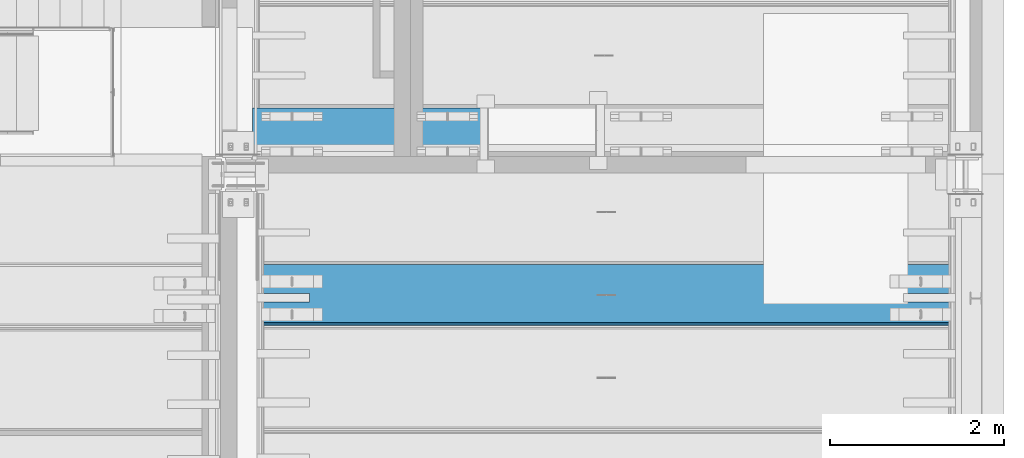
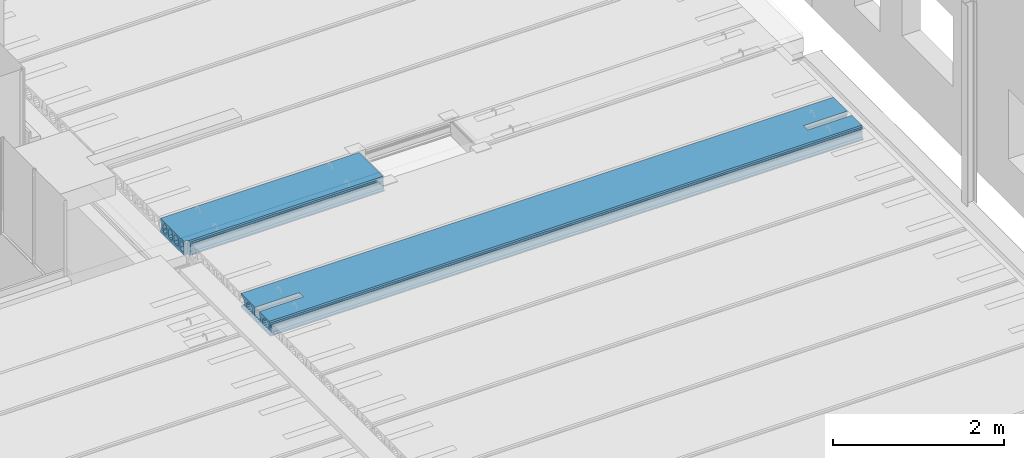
# One storey, part 96 of 230: 2 beams.
"""IFC4X3_ADD2 building model written with IfcOpenShell, lengths in millimetres."""

import ifcopenshell
import ifcopenshell.guid

model = None  # the IFC model being written
_history = None  # IfcOwnerHistory: only IFC2X3 demands one
_inside = {}  # id of a spatial element -> (the spatial element, [elements in it])
_under = {}  # id of a project, library or spatial element -> (it, [spatial elements below it])
_declared = {}  # id of a project -> (the project, [libraries it declares])
_typed = {}  # id of a type object -> (the type object, [elements of that type])
_made_of = {}  # id of a material, layer set ... -> (it, [elements and type objects made of it])


def new_model(schema):
    """Start an empty IFC model of exactly this schema.

    Asked for "IFC4X3", IfcOpenShell would pick the latest addendum, in which some entities
    have other attributes; the version numbers below select the first issue.
    IFC2X3 requires an IfcOwnerHistory on every rooted entity: one is made here for all.
    """
    global model, _history
    if schema == "IFC4X3":
        model = ifcopenshell.file(schema_version=(4, 3, 0, 0))
    else:
        model = ifcopenshell.file(schema=schema)
    _inside.clear()
    _under.clear()
    _declared.clear()
    _typed.clear()
    _made_of.clear()
    _history = None
    if model.schema == "IFC2X3":
        org = make("IfcOrganization", Name="unknown")
        user = make(
            "IfcPersonAndOrganization",
            ThePerson=make("IfcPerson", FamilyName="unknown"),
            TheOrganization=org,
        )
        app = make(
            "IfcApplication",
            ApplicationDeveloper=org,
            Version="unknown",
            ApplicationFullName="unknown",
            ApplicationIdentifier="unknown",
        )
        _history = make(
            "IfcOwnerHistory",
            OwningUser=user,
            OwningApplication=app,
            ChangeAction="ADDED",
            CreationDate=0,
        )
    return model


def make(cls, **values):
    """One entity of the class cls with the attributes given. An attribute that is None is left unset."""
    return model.create_entity(
        cls, **{name: value for name, value in values.items() if value is not None}
    )


def rooted(cls, **values):
    """An entity with a GlobalId (a new one), such as an element, a storey or a relation."""
    return make(cls, GlobalId=ifcopenshell.guid.new(), OwnerHistory=_history, **values)


def si_unit(unit_type, name, prefix=None):
    """IfcSIUnit, for example si_unit("LENGTHUNIT", "METRE", prefix="MILLI")."""
    return make("IfcSIUnit", UnitType=unit_type, Prefix=prefix, Name=name)


def assignment(units):
    """IfcUnitAssignment: the units of a project."""
    return None if units is None else make("IfcUnitAssignment", Units=units)


def point(xyz):
    """IfcCartesianPoint."""
    return None if xyz is None else make("IfcCartesianPoint", Coordinates=xyz)


def direction(xyz):
    """IfcDirection."""
    return None if xyz is None else make("IfcDirection", DirectionRatios=xyz)


def frame(location, z_axis=None, x_axis=None):
    """IfcAxis2Placement3D, a coordinate frame: its origin and axes. An axis left out is left unset."""
    return make(
        "IfcAxis2Placement3D",
        Location=point(location),
        Axis=direction(z_axis),
        RefDirection=direction(x_axis),
    )


def origin_with_axes():
    """The frame at (0, 0, 0) with the z axis (0, 0, 1) and the x axis (1, 0, 0) written out."""
    return frame((0.0, 0.0, 0.0), z_axis=(0.0, 0.0, 1.0), x_axis=(1.0, 0.0, 0.0))


def place(relative_to, where):
    """IfcLocalPlacement: puts the frame where relative to a parent placement (None: the world)."""
    return make(
        "IfcLocalPlacement", PlacementRelTo=relative_to, RelativePlacement=where
    )


def context(
    kind, dimensions, precision=None, world=None, true_north=None, identifier=None
):
    """IfcGeometricRepresentationContext, for example the 3D "Model" context."""
    return make(
        "IfcGeometricRepresentationContext",
        ContextIdentifier=identifier,
        ContextType=kind,
        CoordinateSpaceDimension=dimensions,
        Precision=precision,
        WorldCoordinateSystem=world,
        TrueNorth=true_north,
    )


def subcontext(parent, identifier, kind, view, scale=None):
    """IfcGeometricRepresentationSubContext, for example "Body" below "Model"."""
    return make(
        "IfcGeometricRepresentationSubContext",
        ContextIdentifier=identifier,
        ContextType=kind,
        ParentContext=parent,
        TargetScale=scale,
        TargetView=view,
    )


def project(units=None, contexts=None):
    """IfcProject with its units and contexts."""
    return rooted(
        "IfcProject",
        Name="project",
        RepresentationContexts=contexts,
        UnitsInContext=assignment(units),
    )


def spatial(cls, under=None, at=None, **own):
    """A site, building, storey or space (cls), placed at a placement, below another one or the project."""
    s = rooted(cls, ObjectPlacement=at, **own)
    if under is not None:
        _under.setdefault(under.id(), (under, []))[1].append(s)
    return s


def point_list(points):
    """IfcCartesianPointList2D or 3D."""
    cls = (
        "IfcCartesianPointList2D" if len(points[0]) == 2 else "IfcCartesianPointList3D"
    )
    return make(cls, CoordList=points)


def polygons(points, faces, closed=None, point_numbers=None):
    """IfcPolygonalFaceSet: a face is its outer loop, then its inner loops; points numbered from 1."""
    made = []
    for loops in faces:
        if len(loops) == 1:
            made.append(make("IfcIndexedPolygonalFace", CoordIndex=loops[0]))
        else:
            made.append(
                make(
                    "IfcIndexedPolygonalFaceWithVoids",
                    CoordIndex=loops[0],
                    InnerCoordIndices=loops[1:],
                )
            )
    return make(
        "IfcPolygonalFaceSet",
        Coordinates=point_list(points),
        Closed=closed,
        Faces=made,
        PnIndex=point_numbers,
    )


def shape(context_of_items, identifier, shape_type, items):
    """IfcShapeRepresentation: the items that make up one representation, for example the "Body"."""
    return make(
        "IfcShapeRepresentation",
        ContextOfItems=context_of_items,
        RepresentationIdentifier=identifier,
        RepresentationType=shape_type,
        Items=items,
    )


def made_of(thing, what):
    """Note that an element or type object is made of a material, layer set ...; save() writes the relation."""
    if what is not None:
        _made_of.setdefault(what.id(), (what, []))[1].append(thing)
    return thing


def element(
    cls,
    number,
    at=None,
    inside=None,
    cuts=None,
    type_object=None,
    material=None,
    context=None,
    identifier="Body",
    shape_type=None,
    held_by="IfcProductDefinitionShape",
    body=None,
    shapes=None,
    **own,
):
    """One element of the class cls, such as IfcWall. Its Tag is "e" and its number.

    at: its placement. inside: the storey or other place that contains it. cuts: it is an
    opening in that element (IfcRelVoidsElement). A single representation is given by context,
    identifier, shape_type and body (its items); several are given by shapes. held_by: the class
    of the entity that holds the representations. save() writes the other relations.
    """
    e = rooted(cls, Tag="e%d" % number, ObjectPlacement=at, **own)
    if body is not None:
        shapes = [shape(context, identifier, shape_type, body)]
    if shapes is not None:
        e.Representation = make(held_by, Representations=shapes)
    if inside is not None:
        _inside.setdefault(inside.id(), (inside, []))[1].append(e)
    if cuts is not None:
        rooted(
            "IfcRelVoidsElement", RelatingBuildingElement=cuts, RelatedOpeningElement=e
        )
    if type_object is not None:
        _typed.setdefault(type_object.id(), (type_object, []))[1].append(e)
    return made_of(e, material)


def aggregate(whole, parts):
    """IfcRelAggregates: a whole, such as a stair, and the parts it consists of."""
    return rooted("IfcRelAggregates", RelatingObject=whole, RelatedObjects=parts)


def save(model, path):
    """Write the relations noted so far, then the file.

    IfcRelAggregates (storeys below a building ...), IfcRelContainedInSpatialStructure (elements
    in a storey), IfcRelDefinesByType, IfcRelAssociatesMaterial and IfcRelDeclares: one each for
    every whole, place, type object, material and project.
    """
    for whole, parts in _under.values():
        aggregate(whole, parts)
    for where, things in _inside.values():
        rooted(
            "IfcRelContainedInSpatialStructure",
            RelatedElements=things,
            RelatingStructure=where,
        )
    for kind, things in _typed.values():
        rooted("IfcRelDefinesByType", RelatedObjects=things, RelatingType=kind)
    for what, things in _made_of.values():
        rooted("IfcRelAssociatesMaterial", RelatedObjects=things, RelatingMaterial=what)
    for by, libraries in _declared.values():
        rooted("IfcRelDeclares", RelatingContext=by, RelatedDefinitions=libraries)
    model.write(path)


model = new_model("IFC4X3_ADD2")

# Units and contexts
model_context = context("Model", 3, precision=1e-05, world=origin_with_axes(), true_north=direction((0.0, 1.0)))
body_context = subcontext(model_context, "Body", "Model", "MODEL_VIEW")
ifc_project = project(units=[si_unit("LENGTHUNIT", "METRE", prefix="MILLI"), si_unit("AREAUNIT", "SQUARE_METRE"), si_unit("VOLUMEUNIT", "CUBIC_METRE"), si_unit("PLANEANGLEUNIT", "RADIAN"), si_unit("TIMEUNIT", "SECOND"), si_unit("MASSUNIT", "GRAM")], contexts=[model_context])

# Site, building, storey
site_placement = place(None, origin_with_axes())
site = spatial("IfcSite", under=ifc_project, at=site_placement, Name="Site", CompositionType="ELEMENT")
building_placement = place(site_placement, origin_with_axes())
building = spatial("IfcBuilding", under=site, at=building_placement, Name="IFC Building Story")
storey_placement = place(building_placement, origin_with_axes())
storey = spatial("IfcBuildingStorey", under=building, at=storey_placement, Name="ETAGE 00 (0)", Elevation=0.0)

# Beams
beam_1_placement = place(storey_placement, origin_with_axes())
element("IfcBeam", 1, at=beam_1_placement, inside=storey, Name="HOLLOWCORE SLAB", ObjectType="EB_SPN200", context=body_context, shape_type="Tessellation", body=[
    polygons([(40131.189, 410.000018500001, 3999.9999909), (40131.189, 410.000018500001, 4199.9999909), (40131.189, 960.0000000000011, 4199.9999909), (40131.189, 959.970652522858, 4173.9999909), (40131.189, 951.000442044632, 4172.130025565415), (40131.189, 943.524572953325, 4166.831645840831), (40131.189, 938.7884452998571, 4158.987505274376), (40131.189, 937.581047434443, 4149.904354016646), (40131.189, 945.0817401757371, 4047.854121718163), (40131.189, 946.515079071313, 4042.477896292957), (40131.189, 949.815096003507, 4037.998147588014), (40131.189, 954.524691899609, 4035.035384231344), (40131.189, 960.0000000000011, 4034.001598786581), (40131.189, 960.0000000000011, 3999.9999909), (40131.189, 904.7784551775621, 4132.648621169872), (40131.189, 904.2623714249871, 4134.906763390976), (40131.189, 903.48865377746, 4137.090088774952), (40131.189, 902.467680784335, 4139.169310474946), (40131.189, 889.000018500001, 4162.9999909), (40131.189, 875.000018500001, 4172.9999909), (40131.189, 857.968848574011, 4173.755090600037), (40131.189, 841.4179446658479, 4169.66871024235), (40131.189, 826.6953036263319, 4161.073667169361), (40131.189, 815.000018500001, 4148.669989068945), (40131.189, 815.000018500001, 4059.329992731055), (40131.189, 826.695303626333, 4046.926314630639), (40131.189, 841.4179446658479, 4038.331271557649), (40131.189, 857.968848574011, 4034.244891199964), (40131.189, 875.000018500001, 4034.9999909), (40131.189, 886.000018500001, 4040.9999909), (40131.189, 902.000018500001, 4056.9999909), (40131.189, 908.000018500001, 4071.999990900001), (40131.189, 905.029982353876, 4130.345952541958), (40131.189, 728.0000185, 4173.999990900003), (40131.189, 699.5280630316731, 4167.318792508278), (40131.189, 677.000018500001, 4148.669989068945), (40131.189, 677.000018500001, 4059.329992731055), (40131.189, 699.5280630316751, 4040.681189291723), (40131.189, 728.0000185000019, 4033.999990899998), (40131.189, 756.4719739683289, 4040.681189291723), (40131.189, 779.000018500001, 4059.329992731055), (40131.189, 779.000018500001, 4148.669989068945), (40131.189, 756.4719739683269, 4167.318792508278), (40131.189, 590.000018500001, 4173.999990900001), (40131.189, 561.528063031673, 4167.318792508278), (40131.189, 539.000018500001, 4148.669989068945), (40131.189, 539.000018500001, 4059.329992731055), (40131.189, 561.5280630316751, 4040.681189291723), (40131.189, 590.000018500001, 4033.999990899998), (40131.189, 618.471973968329, 4040.681189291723), (40131.189, 641.000018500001, 4059.329992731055), (40131.189, 641.000018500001, 4148.669989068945), (40131.189, 618.471973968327, 4167.318792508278), (40131.189, 477.582092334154, 4169.668710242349), (40131.189, 461.031188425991, 4173.755090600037), (40131.189, 444.0000185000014, 4172.9999909), (40131.189, 430.000018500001, 4162.9999909), (40131.189, 416.5323714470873, 4139.169302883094), (40131.189, 415.5114016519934, 4137.090085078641), (40131.189, 414.7376861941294, 4134.906764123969), (40131.189, 414.2216035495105, 4132.648626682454), (40131.189, 413.9700763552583, 4130.345962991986), (40131.189, 411.0000185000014, 4071.9999909), (40131.189, 417.0000185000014, 4056.9999909), (40131.189, 433.0000185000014, 4040.9999909), (40131.189, 444.0000185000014, 4034.9999909), (40131.189, 461.031188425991, 4034.244891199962), (40131.189, 477.582092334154, 4038.331271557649), (40131.189, 492.304733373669, 4046.926314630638), (40131.189, 504.000018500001, 4059.329992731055), (40131.189, 504.000018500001, 4148.669989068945), (40131.189, 492.304733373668, 4161.073667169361), (42816.189, 398.0000185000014, 4199.9999909), (42816.189, 382.7113146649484, 4185.002769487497), (42816.189, 382.2299989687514, 4159.9999909), (42816.189, 389.4186549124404, 4151.036789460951), (42816.189, 391.8399485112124, 4139.805000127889), (42816.189, 388.9826399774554, 4128.676139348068), (42816.189, 381.4500307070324, 4119.9999909), (42816.189, 380.000018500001, 4044.9999909), (42816.189, 360.000018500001, 4029.9999909), (42816.189, 360.000018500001, 4012.9999909), (42816.189, 371.0000185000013, 3999.9999909), (42816.189, 960.0000000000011, 3999.9999909), (42816.189, 960.0085159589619, 4033.9999909), (42816.189, 954.524691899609, 4035.035384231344), (42816.189, 949.815096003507, 4037.998147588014), (42816.189, 946.515079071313, 4042.477896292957), (42816.189, 945.0817401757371, 4047.854121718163), (42816.189, 937.581047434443, 4149.904354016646), (42816.189, 938.7884452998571, 4158.987505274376), (42816.189, 943.524572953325, 4166.831645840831), (42816.189, 951.000442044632, 4172.130025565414), (42816.189, 960.0000000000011, 4173.9999909), (42816.189, 960.0000000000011, 4199.9999909), (42816.189, 904.7784551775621, 4132.648621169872), (42816.189, 905.029982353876, 4130.345952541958), (42816.189, 908.000018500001, 4071.9999909), (42816.189, 902.000018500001, 4056.9999909), (42816.189, 886.000018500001, 4040.9999909), (42816.189, 875.000018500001, 4034.9999909), (42816.189, 857.968848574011, 4034.244891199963), (42816.189, 841.4179446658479, 4038.33127155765), (42816.189, 826.695303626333, 4046.926314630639), (42816.189, 815.000018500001, 4059.329992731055), (42816.189, 815.000018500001, 4148.669989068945), (42816.189, 826.6953036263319, 4161.073667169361), (42816.189, 841.4179446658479, 4169.66871024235), (42816.189, 857.968848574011, 4173.755090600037), (42816.189, 875.000018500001, 4172.9999909), (42816.189, 889.000018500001, 4162.9999909), (42816.189, 902.467680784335, 4139.169310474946), (42816.189, 903.48865377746, 4137.090088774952), (42816.189, 904.2623714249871, 4134.906763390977), (42816.189, 728.0000185, 4173.999990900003), (42816.189, 756.4719739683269, 4167.318792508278), (42816.189, 779.000018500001, 4148.669989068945), (42816.189, 779.000018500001, 4059.329992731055), (42816.189, 756.4719739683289, 4040.681189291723), (42816.189, 728.0000185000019, 4033.999990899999), (42816.189, 699.5280630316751, 4040.681189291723), (42816.189, 677.000018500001, 4059.329992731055), (42816.189, 677.000018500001, 4148.669989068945), (42816.189, 699.5280630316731, 4167.318792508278), (42816.189, 590.000018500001, 4173.999990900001), (42816.189, 618.471973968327, 4167.318792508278), (42816.189, 641.000018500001, 4148.669989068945), (42816.189, 641.000018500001, 4059.329992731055), (42816.189, 618.471973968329, 4040.681189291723), (42816.189, 590.000018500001, 4033.999990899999), (42816.189, 561.5280630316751, 4040.681189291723), (42816.189, 539.000018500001, 4059.329992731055), (42816.189, 539.000018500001, 4148.669989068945), (42816.189, 561.528063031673, 4167.318792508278), (42816.189, 477.582092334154, 4169.668710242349), (42816.189, 492.304733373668, 4161.073667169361), (42816.189, 504.000018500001, 4148.669989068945), (42816.189, 504.000018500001, 4059.329992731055), (42816.189, 492.304733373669, 4046.926314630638), (42816.189, 477.582092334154, 4038.331271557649), (42816.189, 461.031188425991, 4034.244891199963), (42816.189, 444.0000185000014, 4034.9999909), (42816.189, 433.0000185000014, 4040.9999909), (42816.189, 417.0000185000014, 4056.9999909), (42816.189, 411.0000185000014, 4071.9999909), (42816.189, 413.9700763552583, 4130.345962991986), (42816.189, 414.2216035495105, 4132.648626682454), (42816.189, 414.7376861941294, 4134.906764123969), (42816.189, 415.5114016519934, 4137.090085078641), (42816.189, 416.5323714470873, 4139.169302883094), (42816.189, 430.000018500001, 4162.9999909), (42816.189, 444.0000185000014, 4172.9999909), (42816.189, 461.031188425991, 4173.755090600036), (40181.189, 371.0000185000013, 3999.9999909), (40181.189, 410.000018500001, 3999.9999909), (40181.189, 360.000018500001, 4012.999990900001), (40181.189, 360.000018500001, 4029.9999909), (40181.189, 380.000018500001, 4044.9999909), (40181.189, 381.4500307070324, 4119.9999909), (40181.189, 388.9826399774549, 4128.676139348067), (40181.189, 391.8399485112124, 4139.805000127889), (40181.189, 389.4186549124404, 4151.036789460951), (40181.189, 382.2299989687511, 4159.9999909), (40181.189, 382.7113146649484, 4185.002769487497), (40181.189, 398.0000185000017, 4199.9999909), (40181.189, 410.000018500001, 4199.9999909), (40131.189, 960.0000000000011, 4174.006108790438), (42816.189, 959.970652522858, 4173.9999909), (40131.189, 960.0085159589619, 4033.9999909), (42816.189, 960.000000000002, 4034.001598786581), (40131.189, 960.0000000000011, 4173.993912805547), (42816.189, 960.0000000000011, 4174.006108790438), (42816.189, 960.0000000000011, 4033.9999909)], [[[44, 2, 3]], [[3, 53, 44]], [[52, 53, 36]], [[36, 37, 51]], [[36, 51, 52]], [[53, 35, 36]], [[53, 34, 35]], [[53, 3, 34]], [[43, 34, 3]], [[18, 19, 7]], [[18, 7, 8]], [[8, 17, 18]], [[8, 16, 17]], [[8, 15, 16]], [[19, 6, 7]], [[22, 23, 42]], [[22, 42, 43]], [[43, 21, 22]], [[21, 43, 3]], [[3, 20, 21]], [[3, 6, 19]], [[3, 19, 20]], [[3, 5, 6]], [[3, 4, 5]], [[25, 26, 41]], [[41, 42, 24]], [[41, 24, 25]], [[42, 23, 24]], [[33, 15, 8]], [[8, 9, 32]], [[8, 32, 33]], [[9, 31, 32]], [[12, 13, 14]], [[14, 11, 12]], [[14, 10, 11]], [[10, 14, 30]], [[30, 31, 9]], [[30, 9, 10]], [[14, 29, 30]], [[14, 28, 29]], [[14, 40, 28]], [[40, 27, 28]], [[40, 41, 26]], [[40, 26, 27]], [[14, 39, 40]], [[14, 50, 39]], [[50, 38, 39]], [[50, 51, 37]], [[50, 37, 38]], [[14, 49, 50]], [[14, 1, 49]], [[1, 48, 49]], [[1, 47, 48]], [[54, 2, 46]], [[46, 72, 54]], [[46, 71, 72]], [[46, 47, 70]], [[46, 70, 71]], [[47, 69, 70]], [[47, 68, 69]], [[68, 47, 1]], [[1, 67, 68]], [[1, 66, 67]], [[1, 65, 66]], [[1, 64, 65]], [[1, 63, 64]], [[63, 1, 2]], [[2, 62, 63]], [[2, 61, 62]], [[2, 60, 61]], [[2, 59, 60]], [[2, 58, 59]], [[2, 57, 58]], [[2, 56, 57]], [[2, 55, 56]], [[2, 54, 55]], [[2, 45, 46]], [[2, 44, 45]], [[80, 81, 82]], [[80, 82, 83]], [[99, 100, 89]], [[89, 98, 99]], [[89, 90, 97]], [[89, 97, 98]], [[90, 96, 97]], [[100, 88, 89]], [[114, 96, 90]], [[90, 113, 114]], [[90, 91, 112]], [[90, 112, 113]], [[93, 94, 95]], [[95, 92, 93]], [[92, 95, 111]], [[111, 112, 91]], [[111, 91, 92]], [[95, 110, 111]], [[95, 109, 110]], [[109, 95, 115]], [[115, 108, 109]], [[115, 107, 108]], [[118, 119, 105]], [[106, 107, 117]], [[117, 118, 105]], [[117, 105, 106]], [[107, 116, 117]], [[107, 115, 116]], [[119, 104, 105]], [[115, 95, 73]], [[73, 124, 115]], [[123, 124, 127]], [[127, 128, 122]], [[127, 122, 123]], [[124, 126, 127]], [[124, 125, 126]], [[124, 73, 125]], [[134, 125, 73]], [[73, 133, 134]], [[145, 146, 78]], [[145, 78, 79]], [[145, 79, 80]], [[80, 144, 145]], [[80, 83, 143]], [[80, 143, 144]], [[83, 142, 143]], [[83, 141, 142]], [[83, 140, 141]], [[83, 132, 140]], [[132, 139, 140]], [[132, 138, 139]], [[132, 133, 137]], [[132, 137, 138]], [[133, 136, 137]], [[133, 135, 136]], [[133, 73, 135]], [[83, 131, 132]], [[83, 130, 131]], [[83, 121, 130]], [[121, 129, 130]], [[121, 122, 128]], [[121, 128, 129]], [[83, 120, 121]], [[83, 103, 120]], [[103, 104, 119]], [[103, 119, 120]], [[83, 102, 103]], [[83, 84, 102]], [[84, 101, 102]], [[84, 88, 100]], [[84, 100, 101]], [[84, 87, 88]], [[84, 86, 87]], [[84, 85, 86]], [[149, 150, 77]], [[77, 148, 149]], [[77, 147, 148]], [[77, 78, 146]], [[77, 146, 147]], [[153, 135, 73]], [[73, 152, 153]], [[73, 151, 152]], [[73, 76, 77]], [[73, 77, 150]], [[73, 150, 151]], [[73, 74, 75]], [[73, 75, 76]], [[155, 1, 14]], [[155, 14, 84]], [[155, 84, 83]], [[83, 154, 155]], [[83, 82, 156, 154]], [[82, 81, 157, 156]], [[81, 80, 158, 157]], [[80, 79, 159, 158]], [[79, 78, 160, 159]], [[78, 77, 161, 160]], [[77, 76, 162, 161]], [[76, 75, 163, 162]], [[75, 74, 164, 163]], [[74, 73, 165, 164]], [[166, 165, 73]], [[73, 95, 3]], [[73, 3, 166]], [[3, 2, 166]], [[5, 167, 168, 93]], [[6, 5, 93, 92]], [[7, 6, 92, 91]], [[8, 7, 91, 90]], [[9, 8, 90, 89]], [[10, 9, 89, 88]], [[11, 10, 88, 87]], [[12, 11, 87, 86]], [[169, 12, 86, 170]], [[16, 15, 96, 114]], [[17, 16, 114, 113]], [[18, 17, 113, 112]], [[19, 18, 112, 111]], [[20, 19, 111, 110]], [[21, 20, 110, 109]], [[22, 21, 109, 108]], [[23, 22, 108, 107]], [[24, 23, 107, 106]], [[25, 24, 106, 105]], [[26, 25, 105, 104]], [[27, 26, 104, 103]], [[28, 27, 103, 102]], [[29, 28, 102, 101]], [[30, 29, 101, 100]], [[31, 30, 100, 99]], [[32, 31, 99, 98]], [[33, 32, 98, 97]], [[15, 33, 97, 96]], [[35, 34, 115, 124]], [[36, 35, 124, 123]], [[37, 36, 123, 122]], [[38, 37, 122, 121]], [[39, 38, 121, 120]], [[40, 39, 120, 119]], [[41, 40, 119, 118]], [[42, 41, 118, 117]], [[43, 42, 117, 116]], [[34, 43, 116, 115]], [[45, 44, 125, 134]], [[46, 45, 134, 133]], [[47, 46, 133, 132]], [[48, 47, 132, 131]], [[49, 48, 131, 130]], [[50, 49, 130, 129]], [[51, 50, 129, 128]], [[52, 51, 128, 127]], [[53, 52, 127, 126]], [[44, 53, 126, 125]], [[55, 54, 135, 153]], [[56, 55, 153, 152]], [[57, 56, 152, 151]], [[58, 57, 151, 150]], [[59, 58, 150, 149]], [[60, 59, 149, 148]], [[61, 60, 148, 147]], [[62, 61, 147, 146]], [[63, 62, 146, 145]], [[64, 63, 145, 144]], [[65, 64, 144, 143]], [[66, 65, 143, 142]], [[67, 66, 142, 141]], [[68, 67, 141, 140]], [[69, 68, 140, 139]], [[70, 69, 139, 138]], [[71, 70, 138, 137]], [[72, 71, 137, 136]], [[54, 72, 136, 135]], [[2, 1, 155, 166]], [[162, 163, 164]], [[162, 164, 165]], [[162, 165, 166]], [[166, 161, 162]], [[166, 160, 161]], [[160, 166, 155]], [[160, 155, 158]], [[158, 159, 160]], [[155, 154, 158]], [[154, 156, 157]], [[154, 157, 158]], [[171, 3, 95, 172]], [[14, 13, 173, 84]]]),
])
beam_2_placement = place(storey_placement, origin_with_axes())
element("IfcBeam", 2, at=beam_2_placement, inside=storey, Name="HOLLOWCORE SLAB", ObjectType="EB_SP200", context=body_context, shape_type="Tessellation", body=[
    polygons([(40181.189, -1528.9999815, 3999.9999909), (40181.189, -1539.9999815, 4012.9999909), (40181.189, -1539.9999815, 4029.9999909), (40181.189, -1519.9999815, 4044.9999909), (40181.189, -1518.549969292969, 4119.9999909), (40181.189, -1511.017360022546, 4128.676139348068), (40181.189, -1508.160051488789, 4139.805000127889), (40181.189, -1510.581345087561, 4151.036789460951), (40181.189, -1517.77000103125, 4159.9999909), (40181.189, -1517.288685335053, 4185.002769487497), (40181.189, -1501.9999815, 4199.9999909), (40181.189, -1269.9999815, 4199.9999909), (40181.189, -1269.9999815, 4155.806158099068), (40181.189, -1274.679436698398, 4152.679446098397), (40181.189, -1290.829006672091, 4128.509906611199), (40181.189, -1296.4999815, 4099.9999909), (40181.189, -1290.829006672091, 4071.490075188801), (40181.189, -1274.679436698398, 4047.320535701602), (40181.189, -1250.509897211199, 4031.170965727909), (40181.189, -1221.9999815, 4025.4999909), (40181.189, -1193.490065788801, 4031.170965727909), (40181.189, -1169.320526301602, 4047.320535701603), (40181.189, -1153.170956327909, 4071.490075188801), (40181.189, -1147.4999815, 4099.9999909), (40181.189, -1153.170956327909, 4128.509906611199), (40181.189, -1169.320526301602, 4152.679446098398), (40181.189, -1169.9999815, 4153.13344354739), (40181.189, -1169.9999815, 4199.9999909), (40181.189, -840.0, 4199.9999909), (40181.189, -840.0, 4173.306520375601), (40181.189, -845.9999815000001, 4174.4999909), (40181.189, -874.5098972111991, 4168.829016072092), (40181.189, -898.679436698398, 4152.679446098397), (40181.189, -914.829006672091, 4128.509906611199), (40181.189, -920.4999815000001, 4099.9999909), (40181.189, -914.829006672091, 4071.490075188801), (40181.189, -898.679436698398, 4047.320535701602), (40181.189, -874.5098972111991, 4031.170965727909), (40181.189, -845.9999815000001, 4025.4999909), (40181.189, -840.0, 4026.693461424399), (40181.189, -840.0, 3999.9999909), (40181.189, -981.3205263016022, 4152.679446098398), (40181.189, -1005.490065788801, 4168.829016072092), (40181.189, -1033.9999815, 4174.4999909), (40181.189, -1062.509897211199, 4168.829016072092), (40181.189, -1086.679436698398, 4152.679446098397), (40181.189, -1102.829006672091, 4128.509906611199), (40181.189, -1108.4999815, 4099.9999909), (40181.189, -1102.829006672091, 4071.490075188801), (40181.189, -1086.679436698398, 4047.320535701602), (40181.189, -1062.509897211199, 4031.170965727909), (40181.189, -1033.9999815, 4025.4999909), (40181.189, -1005.490065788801, 4031.170965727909), (40181.189, -981.3205263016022, 4047.320535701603), (40181.189, -965.1709563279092, 4071.490075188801), (40181.189, -959.4999815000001, 4099.9999909), (40181.189, -965.1709563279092, 4128.509906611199), (40181.189, -1357.320526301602, 4152.679446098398), (40181.189, -1381.490065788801, 4168.829016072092), (40181.189, -1409.9999815, 4174.4999909), (40181.189, -1438.509897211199, 4168.829016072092), (40181.189, -1462.679436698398, 4152.679446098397), (40181.189, -1478.829006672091, 4128.509906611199), (40181.189, -1484.4999815, 4099.9999909), (40181.189, -1478.829006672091, 4071.490075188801), (40181.189, -1462.679436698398, 4047.320535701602), (40181.189, -1438.509897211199, 4031.170965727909), (40181.189, -1409.9999815, 4025.4999909), (40181.189, -1381.490065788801, 4031.170965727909), (40181.189, -1357.320526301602, 4047.320535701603), (40181.189, -1341.170956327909, 4071.490075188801), (40181.189, -1335.4999815, 4099.9999909), (40181.189, -1341.170956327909, 4128.509906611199), (48196.18900000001, -1169.9999815, 4199.9999909), (48196.18900000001, -1169.9999815, 4153.13344354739), (48196.18900000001, -1169.320526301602, 4152.679446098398), (48196.18900000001, -1153.170956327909, 4128.509906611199), (48196.18900000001, -1147.4999815, 4099.9999909), (48196.18900000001, -1153.170956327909, 4071.490075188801), (48196.18900000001, -1169.320526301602, 4047.320535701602), (48196.18900000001, -1193.490065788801, 4031.170965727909), (48196.18900000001, -1221.9999815, 4025.4999909), (48196.18900000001, -1250.509897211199, 4031.170965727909), (48196.18900000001, -1274.679436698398, 4047.320535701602), (48196.18900000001, -1290.829006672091, 4071.490075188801), (48196.18900000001, -1296.4999815, 4099.9999909), (48196.18900000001, -1290.829006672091, 4128.509906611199), (48196.18900000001, -1274.679436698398, 4152.679446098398), (48196.18900000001, -1269.9999815, 4155.806158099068), (48196.18900000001, -1269.9999815, 4199.9999909), (48196.18900000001, -1501.9999815, 4199.9999909), (48196.18900000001, -1517.288685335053, 4185.002769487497), (48196.18900000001, -1517.77000103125, 4159.9999909), (48196.18900000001, -1510.581345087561, 4151.036789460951), (48196.18900000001, -1508.160051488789, 4139.805000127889), (48196.18900000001, -1511.017360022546, 4128.676139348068), (48196.18900000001, -1518.549969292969, 4119.9999909), (48196.18900000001, -1519.9999815, 4044.9999909), (48196.18900000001, -1539.9999815, 4029.9999909), (48196.18900000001, -1539.9999815, 4012.9999909), (48196.18900000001, -1528.9999815, 3999.9999909), (48196.18900000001, -840.0, 3999.9999909), (48196.18900000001, -840.0, 4026.693461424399), (48196.18900000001, -845.9999815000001, 4025.4999909), (48196.18900000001, -874.5098972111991, 4031.170965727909), (48196.18900000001, -898.679436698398, 4047.320535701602), (48196.18900000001, -914.829006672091, 4071.490075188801), (48196.18900000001, -920.4999815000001, 4099.9999909), (48196.18900000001, -914.829006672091, 4128.509906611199), (48196.18900000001, -898.679436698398, 4152.679446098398), (48196.18900000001, -874.5098972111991, 4168.829016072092), (48196.18900000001, -845.9999815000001, 4174.4999909), (48196.18900000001, -840.0, 4173.306520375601), (48196.18900000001, -840.0, 4199.9999909), (48196.18900000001, -981.3205263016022, 4152.679446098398), (48196.18900000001, -965.1709563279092, 4128.509906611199), (48196.18900000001, -959.4999815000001, 4099.9999909), (48196.18900000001, -965.1709563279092, 4071.490075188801), (48196.18900000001, -981.3205263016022, 4047.320535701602), (48196.18900000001, -1005.490065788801, 4031.170965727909), (48196.18900000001, -1033.9999815, 4025.4999909), (48196.18900000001, -1062.509897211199, 4031.170965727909), (48196.18900000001, -1086.679436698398, 4047.320535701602), (48196.18900000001, -1102.829006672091, 4071.490075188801), (48196.18900000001, -1108.4999815, 4099.9999909), (48196.18900000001, -1102.829006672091, 4128.509906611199), (48196.18900000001, -1086.679436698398, 4152.679446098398), (48196.18900000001, -1062.509897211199, 4168.829016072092), (48196.18900000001, -1033.9999815, 4174.4999909), (48196.18900000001, -1005.490065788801, 4168.829016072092), (48196.18900000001, -1357.320526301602, 4152.679446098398), (48196.18900000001, -1341.170956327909, 4128.509906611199), (48196.18900000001, -1335.4999815, 4099.9999909), (48196.18900000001, -1341.170956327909, 4071.490075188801), (48196.18900000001, -1357.320526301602, 4047.320535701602), (48196.18900000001, -1381.490065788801, 4031.170965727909), (48196.18900000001, -1409.9999815, 4025.4999909), (48196.18900000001, -1438.509897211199, 4031.170965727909), (48196.18900000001, -1462.679436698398, 4047.320535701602), (48196.18900000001, -1478.829006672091, 4071.490075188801), (48196.18900000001, -1484.4999815, 4099.9999909), (48196.18900000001, -1478.829006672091, 4128.509906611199), (48196.18900000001, -1462.679436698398, 4152.679446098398), (48196.18900000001, -1438.509897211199, 4168.829016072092), (48196.18900000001, -1409.9999815, 4174.4999909), (48196.18900000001, -1381.490065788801, 4168.829016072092), (47596.18900000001, -1269.9999815, 4199.9999909), (47596.18900000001, -1169.9999815, 4199.9999909), (40781.189, -1169.9999815, 4199.9999909), (40781.189, -1269.9999815, 4199.9999909), (47596.18900000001, -1169.9999815, 4153.13344354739), (47596.18900000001, -1193.490065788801, 4168.829016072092), (40781.189, -1193.490065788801, 4168.829016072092), (40781.189, -1169.9999815, 4153.13344354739), (47596.18900000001, -1221.9999815, 4174.4999909), (40781.189, -1221.9999815, 4174.4999909), (47596.18900000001, -1250.509897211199, 4168.829016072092), (40781.189, -1250.509897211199, 4168.829016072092), (40781.189, -1269.9999815, 4155.806158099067), (47596.18900000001, -1269.9999815, 4155.806158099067), (47596.18900000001, -1169.9999815, 4199.999996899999), (47596.18900000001, -1269.9999815, 4199.999996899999), (40781.189, -1269.9999815, 4199.999996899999), (40781.189, -1169.9999815, 4199.999996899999)], [[[26, 27, 28]], [[45, 46, 25]], [[45, 25, 26]], [[45, 26, 28]], [[28, 44, 45]], [[44, 28, 29]], [[29, 43, 44]], [[29, 42, 43]], [[47, 48, 24]], [[47, 24, 25]], [[25, 46, 47]], [[49, 50, 23]], [[23, 24, 48]], [[23, 48, 49]], [[50, 22, 23]], [[32, 33, 57]], [[32, 57, 42]], [[32, 42, 29]], [[29, 31, 32]], [[29, 30, 31]], [[34, 35, 56]], [[34, 56, 57]], [[57, 33, 34]], [[36, 37, 55]], [[55, 56, 35]], [[55, 35, 36]], [[39, 40, 41]], [[41, 38, 39]], [[41, 54, 55]], [[41, 55, 37]], [[41, 37, 38]], [[41, 53, 54]], [[41, 52, 53]], [[41, 21, 52]], [[21, 51, 52]], [[21, 22, 50]], [[21, 50, 51]], [[41, 20, 21]], [[41, 1, 20]], [[1, 19, 20]], [[1, 18, 19]], [[8, 9, 10]], [[8, 10, 11]], [[62, 63, 7]], [[62, 7, 8]], [[8, 11, 61]], [[8, 61, 62]], [[11, 60, 61]], [[60, 11, 12]], [[12, 59, 60]], [[12, 58, 59]], [[63, 6, 7]], [[65, 66, 4]], [[4, 5, 64]], [[4, 64, 65]], [[5, 6, 63]], [[5, 63, 64]], [[69, 70, 17]], [[69, 17, 18]], [[18, 68, 69]], [[18, 1, 68]], [[1, 67, 68]], [[1, 4, 66]], [[1, 66, 67]], [[1, 2, 3]], [[1, 3, 4]], [[71, 72, 16]], [[71, 16, 17]], [[17, 70, 71]], [[73, 58, 15]], [[15, 16, 72]], [[15, 72, 73]], [[58, 12, 14]], [[58, 14, 15]], [[12, 13, 14]], [[98, 99, 100]], [[98, 100, 101]], [[112, 113, 114]], [[114, 111, 112]], [[114, 110, 111]], [[110, 114, 115]], [[115, 109, 110]], [[116, 117, 108]], [[116, 108, 109]], [[109, 115, 116]], [[117, 118, 107]], [[117, 107, 108]], [[118, 106, 107]], [[130, 115, 114]], [[114, 129, 130]], [[114, 74, 129]], [[74, 128, 129]], [[74, 127, 128]], [[74, 75, 126]], [[74, 126, 127]], [[77, 78, 125]], [[77, 125, 126]], [[126, 76, 77]], [[126, 75, 76]], [[79, 80, 124]], [[124, 125, 78]], [[124, 78, 79]], [[80, 123, 124]], [[88, 89, 90]], [[90, 131, 87]], [[90, 87, 88]], [[132, 133, 86]], [[132, 86, 87]], [[87, 131, 132]], [[134, 135, 85]], [[85, 86, 133]], [[85, 133, 134]], [[141, 142, 96]], [[141, 96, 97]], [[97, 98, 140]], [[97, 140, 141]], [[98, 101, 139]], [[98, 139, 140]], [[101, 138, 139]], [[101, 137, 138]], [[101, 136, 137]], [[101, 84, 136]], [[84, 85, 135]], [[84, 135, 136]], [[101, 83, 84]], [[101, 82, 83]], [[101, 122, 82]], [[122, 81, 82]], [[122, 123, 80]], [[122, 80, 81]], [[101, 121, 122]], [[101, 102, 121]], [[102, 120, 121]], [[102, 119, 120]], [[102, 106, 118]], [[102, 118, 119]], [[102, 105, 106]], [[102, 104, 105]], [[102, 103, 104]], [[142, 95, 96]], [[146, 131, 90]], [[90, 145, 146]], [[90, 91, 145]], [[91, 144, 145]], [[91, 94, 143]], [[91, 143, 144]], [[94, 95, 142]], [[94, 142, 143]], [[91, 92, 93]], [[91, 93, 94]], [[101, 1, 41, 102]], [[2, 1, 101, 100]], [[3, 2, 100, 99]], [[4, 3, 99, 98]], [[5, 4, 98, 97]], [[6, 5, 97, 96]], [[7, 6, 96, 95]], [[8, 7, 95, 94]], [[9, 8, 94, 93]], [[10, 9, 93, 92]], [[11, 10, 92, 91]], [[148, 74, 114]], [[148, 114, 29]], [[29, 147, 148]], [[150, 12, 11]], [[150, 11, 91]], [[91, 149, 150]], [[91, 147, 29]], [[91, 29, 149]], [[29, 28, 149]], [[91, 90, 147]], [[112, 31, 30, 113]], [[32, 31, 112, 111]], [[33, 32, 111, 110]], [[34, 33, 110, 109]], [[35, 34, 109, 108]], [[36, 35, 108, 107]], [[37, 36, 107, 106]], [[38, 37, 106, 105]], [[39, 38, 105, 104]], [[39, 104, 103, 40]], [[43, 42, 115, 130]], [[44, 43, 130, 129]], [[45, 44, 129, 128]], [[46, 45, 128, 127]], [[47, 46, 127, 126]], [[48, 47, 126, 125]], [[49, 48, 125, 124]], [[50, 49, 124, 123]], [[51, 50, 123, 122]], [[52, 51, 122, 121]], [[53, 52, 121, 120]], [[54, 53, 120, 119]], [[55, 54, 119, 118]], [[56, 55, 118, 117]], [[57, 56, 117, 116]], [[42, 57, 116, 115]], [[154, 27, 26]], [[154, 26, 151]], [[151, 152, 153]], [[151, 153, 154]], [[26, 76, 151]], [[76, 75, 151]], [[153, 152, 155, 156]], [[156, 155, 157, 158]], [[160, 89, 88]], [[160, 88, 159]], [[159, 158, 157]], [[159, 157, 160]], [[88, 14, 159]], [[14, 13, 159]], [[15, 14, 88, 87]], [[16, 15, 87, 86]], [[17, 16, 86, 85]], [[18, 17, 85, 84]], [[19, 18, 84, 83]], [[20, 19, 83, 82]], [[21, 20, 82, 81]], [[22, 21, 81, 80]], [[23, 22, 80, 79]], [[24, 23, 79, 78]], [[25, 24, 78, 77]], [[26, 25, 77, 76]], [[59, 58, 131, 146]], [[60, 59, 146, 145]], [[61, 60, 145, 144]], [[62, 61, 144, 143]], [[63, 62, 143, 142]], [[64, 63, 142, 141]], [[65, 64, 141, 140]], [[66, 65, 140, 139]], [[67, 66, 139, 138]], [[68, 67, 138, 137]], [[69, 68, 137, 136]], [[70, 69, 136, 135]], [[71, 70, 135, 134]], [[72, 71, 134, 133]], [[73, 72, 133, 132]], [[58, 73, 132, 131]], [[90, 89, 160, 147]], [[75, 74, 161, 151]], [[152, 151, 148]], [[148, 162, 155]], [[148, 155, 152]], [[162, 157, 155]], [[162, 160, 157]], [[28, 27, 154, 149]], [[13, 12, 163, 159]], [[158, 159, 150]], [[150, 156, 158]], [[150, 164, 153]], [[150, 153, 156]], [[164, 154, 153]], [[30, 29, 114, 113]], [[41, 40, 103, 102]]]),
])

save(model, "model.ifc")
